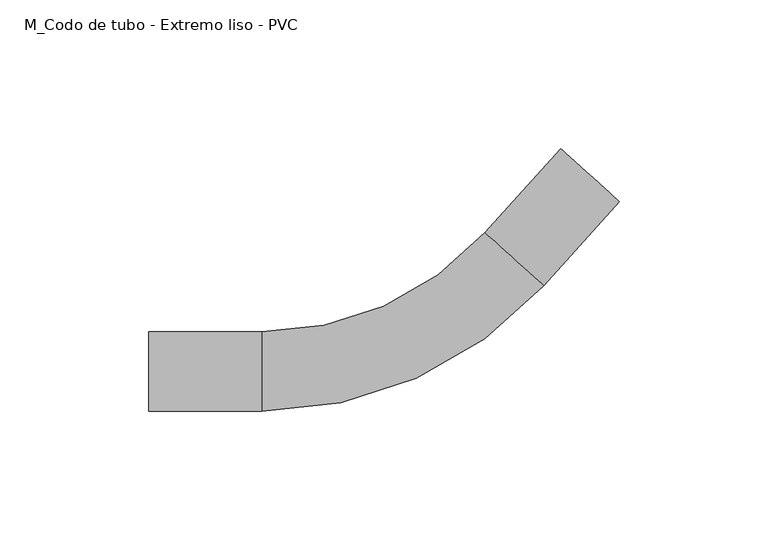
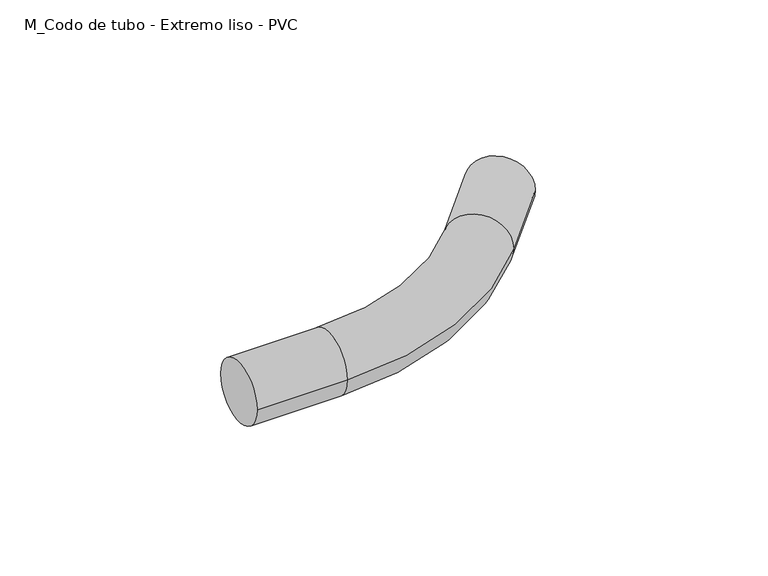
"""IFC4 building model written with IfcOpenShell, lengths in millimetres: cable carrier fitting geometry, M_Codo de tubo - Extremo liso - PVC : CODO POTENCIA."""

from ifc_helpers import new_model, si_unit, point, frame, origin, place, context, project, spatial, circle_curve, ellipse_curve, trimmed, source, transform, mapped, element, save
from ifc_brep_helpers import plane_surface, cylinder_surface, revolved_surface, advanced_brep


def m_codo_de_tubo_extremo_liso_pvc_9b9dffae(model_context):
    return source(origin(), model_context, "Body", "AdvancedBrep", [
        advanced_brep(
        [(-88.9896387, -13.335, 0.0), (-88.9896387, 13.335, 0.0), (-50.8896387, -13.335, 0.0), (-50.8896387, 13.335, 0.0), (24.1419786, 46.7412283, 0.0), (43.9616511, 28.8955151, 0.0), (69.4555272, 57.2093329, 0.0), (49.6358547, 75.0550462, 0.0)],
        [
            (0, 1, circle_curve(frame((-88.9896387, 0.0, 0.0), z_axis=(-1.0, 0.0, 0.0), x_axis=(0.0, 1.0, 0.0)), 13.335)),
            (1, 0, circle_curve(frame((-88.9896387, 0.0, 0.0), z_axis=(-1.0, 0.0, 0.0), x_axis=(0.0, 1.0, 0.0)), 13.335)),
            (0, 2),
            (2, 3, circle_curve(frame((-50.8896387, 0.0, 0.0), z_axis=(-1.0, 0.0, 0.0), x_axis=(0.0, 1.0, 0.0)), 13.335)),
            (3, 1),
            (3, 2, circle_curve(frame((-50.8896387, 0.0, 0.0), z_axis=(-1.0, 0.0, 0.0), x_axis=(0.0, 1.0, 0.0)), 13.335)),
            (4, 3, circle_curve(frame((-50.8896387, 114.3, 0.0), z_axis=(0.0, 0.0, -1.0), x_axis=(0.0, -1.0, 0.0)), 100.965)),
            (2, 5, circle_curve(frame((-50.8896387, 114.3, 0.0), z_axis=(0.0, 0.0, 1.0), x_axis=(0.0, -1.0, 0.0)), 127.635)),
            (5, 4, circle_curve(frame((34.0518148, 37.8183717, 0.0), z_axis=(-0.6691306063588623, -0.7431448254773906, 0.0), x_axis=(-0.7431448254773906, 0.6691306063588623, 0.0)), 13.335)),
            (4, 5, circle_curve(frame((34.0518148, 37.8183717, 0.0), z_axis=(-0.6691306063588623, -0.7431448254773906, 0.0), x_axis=(-0.7431448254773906, 0.6691306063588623, 0.0)), 13.335)),
            (6, 7, circle_curve(frame((59.5456909, 66.1321895, 0.0), z_axis=(0.6691306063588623, 0.7431448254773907, 0.0), x_axis=(-0.7431448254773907, 0.6691306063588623, 0.0)), 13.335)),
            (7, 6, circle_curve(frame((59.5456909, 66.1321895, 0.0), z_axis=(0.6691306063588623, 0.7431448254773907, 0.0), x_axis=(-0.7431448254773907, 0.6691306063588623, 0.0)), 13.335)),
            (5, 6),
            (7, 4),
        ],
        [
            plane_surface(frame((-88.9896387, 0.0, 0.0), z_axis=(-1.0, 0.0, 0.0), x_axis=(0.0, 0.0, 1.0))),
            cylinder_surface(frame((-88.9896387, 0.0, 0.0), z_axis=(-1.0, 0.0, 0.0), x_axis=(0.0, 1.0, 0.0)), 13.335),
            revolved_surface(trimmed(ellipse_curve(frame((-50.8896387, 0.0, 0.0), z_axis=(-1.0, 0.0, 0.0), x_axis=(0.0, 1.0, 0.0)), 13.335, 13.335), [point((-50.8896387, -13.335, 0.0))], [point((-50.8896387, 13.335, 0.0))], True, "CARTESIAN"), (-50.8896387, 114.3, 0.0), (0.0, 0.0, 1.0)),
            revolved_surface(trimmed(ellipse_curve(frame((-50.8896387, 0.0, 0.0), z_axis=(-1.0, 0.0, 0.0), x_axis=(0.0, 1.0, 0.0)), 13.335, 13.335), [point((-50.8896387, 13.335, 0.0))], [point((-50.8896387, -13.335, 0.0))], True, "CARTESIAN"), (-50.8896387, 114.3, 0.0), (0.0, 0.0, 1.0)),
            plane_surface(frame((59.5456909, 66.1321895, 0.0), z_axis=(0.6691306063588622, 0.7431448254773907, 0.0), x_axis=(0.0, 0.0, 1.0))),
            cylinder_surface(frame((34.0518148, 37.8183717, 0.0), z_axis=(-0.6691306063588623, -0.7431448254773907, 0.0), x_axis=(-0.7431448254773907, 0.6691306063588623, 0.0)), 13.335),
        ],
        [
            (0, [[1, 2]]),
            (1, [[-1, 3, 4, 5]]),
            (1, [[-2, -5, 6, -3]]),
            (2, [[7, -4, 8, 9]]),
            (3, [[-8, -6, -7, 10]]),
            (4, [[11, 12]]),
            (5, [[-9, 13, -12, 14]]),
            (5, [[-10, -14, -11, -13]]),
        ],
    ),
    ])


if __name__ == "__main__":
    model = new_model("IFC4")
    model_context = context("Model", 3, world=origin())
    ifc_project = project(units=[si_unit("LENGTHUNIT", "METRE", prefix="MILLI")], contexts=[model_context])
    site = spatial("IfcSite", under=ifc_project)
    building = spatial("IfcBuilding", under=site)
    placement = place(None, origin())
    m_codo_de_tubo_extremo_liso_pvc_shape = m_codo_de_tubo_extremo_liso_pvc_9b9dffae(model_context)
    element("IfcCableCarrierFitting", 1, ObjectType="M_Codo de tubo - Extremo liso - PVC : CODO POTENCIA", at=placement, inside=building, context=model_context, shape_type="MappedRepresentation", body=[
        mapped(m_codo_de_tubo_extremo_liso_pvc_shape, transform((0.0, 0.0, 0.0), x_axis=(1.0, 0.0, 0.0), y_axis=(0.0, 1.0, 0.0), z_axis=(0.0, 0.0, 1.0))),
    ])
    save(model, "model.ifc")
